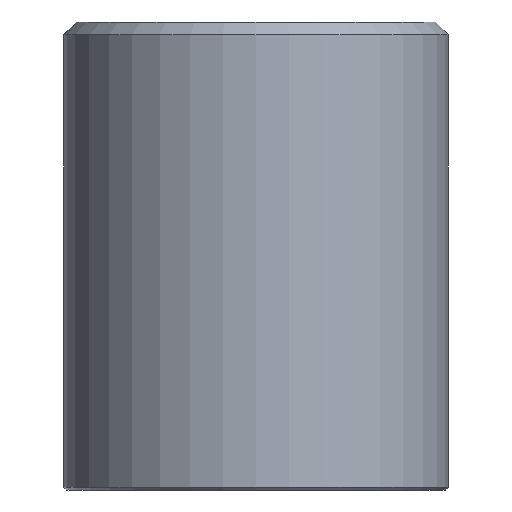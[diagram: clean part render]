
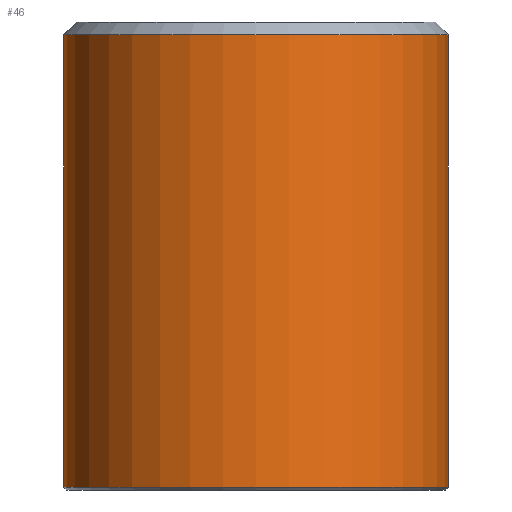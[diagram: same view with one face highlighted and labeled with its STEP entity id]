
A CAD part, front view. The second image highlights one B-rep face of the part: STEP entity #46.
In plain terms, the highlighted cylindrical face has radius 15 mm (diameter 30 mm), a full revolution.
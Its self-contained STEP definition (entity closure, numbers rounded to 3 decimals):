
#46 = ADVANCED_FACE( '', ( #99, #100 ), #101, .T. );
#99 = FACE_OUTER_BOUND( '', #162, .T. );
#100 = FACE_OUTER_BOUND( '', #163, .T. );
#101 = CYLINDRICAL_SURFACE( '', #164, 15. );
#162 = EDGE_LOOP( '', ( #227 ) );
#163 = EDGE_LOOP( '', ( #228 ) );
#164 = AXIS2_PLACEMENT_3D( '', #229, #230, #231 );
#227 = ORIENTED_EDGE( '', *, *, #287, .T. );
#228 = ORIENTED_EDGE( '', *, *, #298, .T. );
#229 = CARTESIAN_POINT( '', ( 0., 0., 36.5 ) );
#230 = DIRECTION( '', ( 0., 0., 1. ) );
#231 = DIRECTION( '', ( -1., 0., 0. ) );
#287 = EDGE_CURVE( '', #315, #315, #316, .F. );
#298 = EDGE_CURVE( '', #333, #333, #334, .T. );
#315 = VERTEX_POINT( '', #357 );
#316 = CIRCLE( '', #358, 15. );
#333 = VERTEX_POINT( '', #375 );
#334 = CIRCLE( '', #376, 15. );
#357 = CARTESIAN_POINT( '', ( -15., 0., 0.2 ) );
#358 = AXIS2_PLACEMENT_3D( '', #398, #399, #400 );
#375 = CARTESIAN_POINT( '', ( -15., 0., 35.5 ) );
#376 = AXIS2_PLACEMENT_3D( '', #419, #420, #421 );
#398 = CARTESIAN_POINT( '', ( 0., 0., 0.2 ) );
#399 = DIRECTION( '', ( 0., 0., -1. ) );
#400 = DIRECTION( '', ( -1., 0., 0. ) );
#419 = CARTESIAN_POINT( '', ( 0., 0., 35.5 ) );
#420 = DIRECTION( '', ( 0., 0., -1. ) );
#421 = DIRECTION( '', ( -1., 0., 0. ) );
